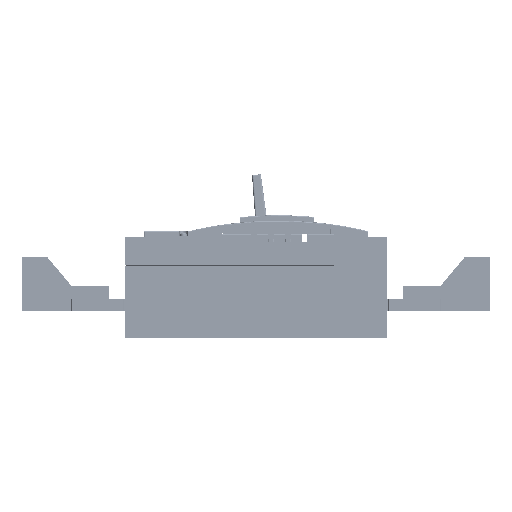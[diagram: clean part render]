
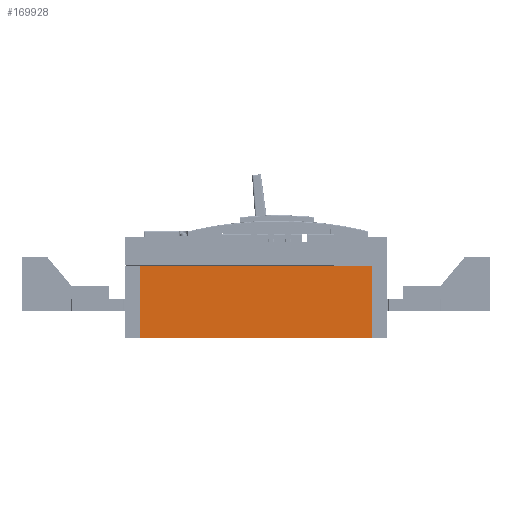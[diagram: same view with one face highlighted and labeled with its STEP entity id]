
A CAD part, left-side view. The second image highlights one B-rep face of the part: STEP entity #169928.
In plain terms, the highlighted planar face has unit normal (-1, 0, 0).
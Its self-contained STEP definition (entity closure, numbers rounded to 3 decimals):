
#1892 = DIRECTION ( 'NONE',  ( 0., 0., -1. ) ) ;
#1894 = VECTOR ( 'NONE', #1892, 1000. ) ;
#1895 = CARTESIAN_POINT ( 'NONE',  ( -185.989, 138.477, 59.794 ) ) ;
#1897 = LINE ( 'NONE', #1895, #1894 ) ;
#2681 = FACE_OUTER_BOUND ( 'NONE', #169938, .T. ) ;
#2797 = DIRECTION ( 'NONE',  ( 0., 0., -1. ) ) ;
#2799 = DIRECTION ( 'NONE',  ( 1., 0., 0. ) ) ;
#2801 = CARTESIAN_POINT ( 'NONE',  ( -185.989, -171.523, 59.794 ) ) ;
#2802 = AXIS2_PLACEMENT_3D ( 'NONE', #2801, #2799, #2797 ) ;
#2809 = PLANE ( 'NONE',  #2802 ) ;
#7706 = DIRECTION ( 'NONE',  ( 0., 0., -1. ) ) ;
#7708 = VECTOR ( 'NONE', #7706, 1000. ) ;
#7709 = CARTESIAN_POINT ( 'NONE',  ( -185.989, -171.523, 59.794 ) ) ;
#7710 = LINE ( 'NONE', #7709, #7708 ) ;
#169487 = ORIENTED_EDGE ( 'NONE', *, *, #247910, .T. ) ;
#169796 = ORIENTED_EDGE ( 'NONE', *, *, #169809, .T. ) ;
#169809 = EDGE_CURVE ( 'NONE', #250257, #248458, #1897, .T. ) ;
#169928 = ADVANCED_FACE ( 'NONE', ( #2681 ), #2809, .F. ) ;
#169938 = EDGE_LOOP ( 'NONE', ( #169796, #169487, #170622, #170587 ) ) ;
#170587 = ORIENTED_EDGE ( 'NONE', *, *, #250414, .F. ) ;
#170622 = ORIENTED_EDGE ( 'NONE', *, *, #170662, .F. ) ;
#170662 = EDGE_CURVE ( 'NONE', #250418, #248135, #7710, .T. ) ;
#184902 = DIRECTION ( 'NONE',  ( 0., -1., 0. ) ) ;
#184903 = VECTOR ( 'NONE', #184902, 1000. ) ;
#184904 = CARTESIAN_POINT ( 'NONE',  ( -185.989, -171.523, -36.706 ) ) ;
#184905 = LINE ( 'NONE', #184904, #184903 ) ;
#185320 = CARTESIAN_POINT ( 'NONE',  ( -185.989, -171.523, -36.706 ) ) ;
#185884 = CARTESIAN_POINT ( 'NONE',  ( -185.989, 138.477, -36.706 ) ) ;
#189059 = CARTESIAN_POINT ( 'NONE',  ( -185.989, 138.477, 59.794 ) ) ;
#189418 = CARTESIAN_POINT ( 'NONE',  ( -185.989, -171.523, 59.794 ) ) ;
#189419 = DIRECTION ( 'NONE',  ( 0., -1., 0. ) ) ;
#189420 = VECTOR ( 'NONE', #189419, 1000. ) ;
#189421 = CARTESIAN_POINT ( 'NONE',  ( -185.989, -171.523, 59.794 ) ) ;
#189423 = LINE ( 'NONE', #189421, #189420 ) ;
#247910 = EDGE_CURVE ( 'NONE', #248458, #248135, #184905, .T. ) ;
#248135 = VERTEX_POINT ( 'NONE', #185320 ) ;
#248458 = VERTEX_POINT ( 'NONE', #185884 ) ;
#250257 = VERTEX_POINT ( 'NONE', #189059 ) ;
#250414 = EDGE_CURVE ( 'NONE', #250257, #250418, #189423, .T. ) ;
#250418 = VERTEX_POINT ( 'NONE', #189418 ) ;
